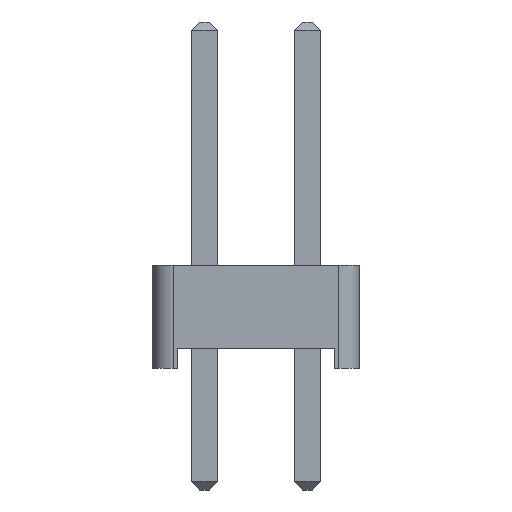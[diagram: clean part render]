
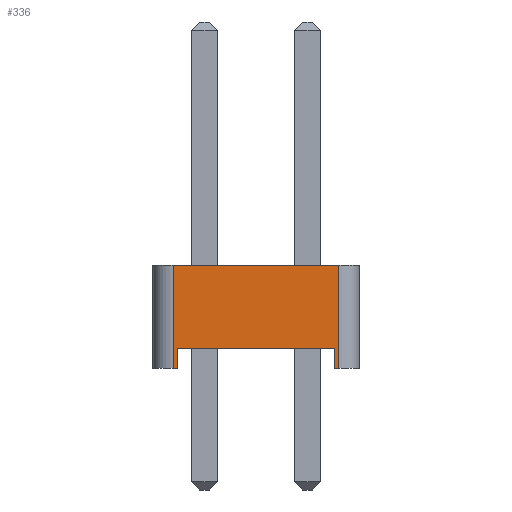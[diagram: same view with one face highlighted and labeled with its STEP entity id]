
A CAD part, left-side view. The second image highlights one B-rep face of the part: STEP entity #336.
In plain terms, the highlighted planar face has unit normal (-1, 0, 0).
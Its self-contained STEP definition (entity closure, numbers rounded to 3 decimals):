
#76 = VERTEX_POINT('',#77);
#77 = CARTESIAN_POINT('',(-1.27,2.04,0.));
#85 = PLANE('',#86);
#86 = AXIS2_PLACEMENT_3D('',#87,#88,#89);
#87 = CARTESIAN_POINT('',(0.,0.,0.));
#88 = DIRECTION('',(-0.,-0.,-1.));
#89 = DIRECTION('',(-1.,0.,0.));
#101 = CYLINDRICAL_SURFACE('',#102,0.5);
#102 = AXIS2_PLACEMENT_3D('',#103,#104,#105);
#103 = CARTESIAN_POINT('',(-0.77,2.04,0.));
#104 = DIRECTION('',(0.,0.,1.));
#105 = DIRECTION('',(0.,1.,0.));
#203 = VERTEX_POINT('',#204);
#204 = CARTESIAN_POINT('',(-1.27,1.94,0.));
#218 = PLANE('',#219);
#219 = AXIS2_PLACEMENT_3D('',#220,#221,#222);
#220 = CARTESIAN_POINT('',(1.27,1.94,0.));
#221 = DIRECTION('',(0.,-1.,0.));
#222 = DIRECTION('',(-1.,0.,0.));
#230 = EDGE_CURVE('',#203,#76,#231,.T.);
#231 = SURFACE_CURVE('',#232,(#236,#243),.PCURVE_S1.);
#232 = LINE('',#233,#234);
#233 = CARTESIAN_POINT('',(-1.27,-2.54,0.));
#234 = VECTOR('',#235,1.);
#235 = DIRECTION('',(0.,1.,0.));
#236 = PCURVE('',#85,#237);
#237 = DEFINITIONAL_REPRESENTATION('',(#238),#242);
#238 = LINE('',#239,#240);
#239 = CARTESIAN_POINT('',(1.27,-2.54));
#240 = VECTOR('',#241,1.);
#241 = DIRECTION('',(0.,1.));
#242 = ( GEOMETRIC_REPRESENTATION_CONTEXT(2) 
PARAMETRIC_REPRESENTATION_CONTEXT() REPRESENTATION_CONTEXT('2D SPACE',''
  ) );
#243 = PCURVE('',#244,#249);
#244 = PLANE('',#245);
#245 = AXIS2_PLACEMENT_3D('',#246,#247,#248);
#246 = CARTESIAN_POINT('',(-1.27,-2.54,0.));
#247 = DIRECTION('',(-1.,0.,0.));
#248 = DIRECTION('',(0.,1.,0.));
#249 = DEFINITIONAL_REPRESENTATION('',(#250),#254);
#250 = LINE('',#251,#252);
#251 = CARTESIAN_POINT('',(0.,0.));
#252 = VECTOR('',#253,1.);
#253 = DIRECTION('',(1.,0.));
#254 = ( GEOMETRIC_REPRESENTATION_CONTEXT(2) 
PARAMETRIC_REPRESENTATION_CONTEXT() REPRESENTATION_CONTEXT('2D SPACE',''
  ) );
#260 = EDGE_CURVE('',#76,#261,#263,.T.);
#261 = VERTEX_POINT('',#262);
#262 = CARTESIAN_POINT('',(-1.27,2.04,2.54));
#263 = SURFACE_CURVE('',#264,(#268,#275),.PCURVE_S1.);
#264 = LINE('',#265,#266);
#265 = CARTESIAN_POINT('',(-1.27,2.04,0.));
#266 = VECTOR('',#267,1.);
#267 = DIRECTION('',(0.,0.,1.));
#268 = PCURVE('',#101,#269);
#269 = DEFINITIONAL_REPRESENTATION('',(#270),#274);
#270 = LINE('',#271,#272);
#271 = CARTESIAN_POINT('',(1.571,0.));
#272 = VECTOR('',#273,1.);
#273 = DIRECTION('',(0.,1.));
#274 = ( GEOMETRIC_REPRESENTATION_CONTEXT(2) 
PARAMETRIC_REPRESENTATION_CONTEXT() REPRESENTATION_CONTEXT('2D SPACE',''
  ) );
#275 = PCURVE('',#244,#276);
#276 = DEFINITIONAL_REPRESENTATION('',(#277),#281);
#277 = LINE('',#278,#279);
#278 = CARTESIAN_POINT('',(4.58,0.));
#279 = VECTOR('',#280,1.);
#280 = DIRECTION('',(0.,-1.));
#281 = ( GEOMETRIC_REPRESENTATION_CONTEXT(2) 
PARAMETRIC_REPRESENTATION_CONTEXT() REPRESENTATION_CONTEXT('2D SPACE',''
  ) );
#300 = PLANE('',#301);
#301 = AXIS2_PLACEMENT_3D('',#302,#303,#304);
#302 = CARTESIAN_POINT('',(0.,0.,2.54));
#303 = DIRECTION('',(-0.,-0.,-1.));
#304 = DIRECTION('',(-1.,0.,0.));
#336 = ADVANCED_FACE('',(#337),#244,.T.);
#337 = FACE_BOUND('',#338,.T.);
#338 = EDGE_LOOP('',(#339,#369,#397,#418,#419,#420,#443,#471));
#339 = ORIENTED_EDGE('',*,*,#340,.F.);
#340 = EDGE_CURVE('',#341,#343,#345,.T.);
#341 = VERTEX_POINT('',#342);
#342 = CARTESIAN_POINT('',(-1.27,-2.04,0.));
#343 = VERTEX_POINT('',#344);
#344 = CARTESIAN_POINT('',(-1.27,-1.94,0.));
#345 = SURFACE_CURVE('',#346,(#350,#357),.PCURVE_S1.);
#346 = LINE('',#347,#348);
#347 = CARTESIAN_POINT('',(-1.27,-2.54,0.));
#348 = VECTOR('',#349,1.);
#349 = DIRECTION('',(0.,1.,0.));
#350 = PCURVE('',#244,#351);
#351 = DEFINITIONAL_REPRESENTATION('',(#352),#356);
#352 = LINE('',#353,#354);
#353 = CARTESIAN_POINT('',(0.,0.));
#354 = VECTOR('',#355,1.);
#355 = DIRECTION('',(1.,0.));
#356 = ( GEOMETRIC_REPRESENTATION_CONTEXT(2) 
PARAMETRIC_REPRESENTATION_CONTEXT() REPRESENTATION_CONTEXT('2D SPACE',''
  ) );
#357 = PCURVE('',#358,#363);
#358 = PLANE('',#359);
#359 = AXIS2_PLACEMENT_3D('',#360,#361,#362);
#360 = CARTESIAN_POINT('',(0.,0.,0.));
#361 = DIRECTION('',(-0.,-0.,-1.));
#362 = DIRECTION('',(-1.,0.,0.));
#363 = DEFINITIONAL_REPRESENTATION('',(#364),#368);
#364 = LINE('',#365,#366);
#365 = CARTESIAN_POINT('',(1.27,-2.54));
#366 = VECTOR('',#367,1.);
#367 = DIRECTION('',(0.,1.));
#368 = ( GEOMETRIC_REPRESENTATION_CONTEXT(2) 
PARAMETRIC_REPRESENTATION_CONTEXT() REPRESENTATION_CONTEXT('2D SPACE',''
  ) );
#369 = ORIENTED_EDGE('',*,*,#370,.T.);
#370 = EDGE_CURVE('',#341,#371,#373,.T.);
#371 = VERTEX_POINT('',#372);
#372 = CARTESIAN_POINT('',(-1.27,-2.04,2.54));
#373 = SURFACE_CURVE('',#374,(#378,#385),.PCURVE_S1.);
#374 = LINE('',#375,#376);
#375 = CARTESIAN_POINT('',(-1.27,-2.04,0.));
#376 = VECTOR('',#377,1.);
#377 = DIRECTION('',(0.,0.,1.));
#378 = PCURVE('',#244,#379);
#379 = DEFINITIONAL_REPRESENTATION('',(#380),#384);
#380 = LINE('',#381,#382);
#381 = CARTESIAN_POINT('',(0.5,0.));
#382 = VECTOR('',#383,1.);
#383 = DIRECTION('',(0.,-1.));
#384 = ( GEOMETRIC_REPRESENTATION_CONTEXT(2) 
PARAMETRIC_REPRESENTATION_CONTEXT() REPRESENTATION_CONTEXT('2D SPACE',''
  ) );
#385 = PCURVE('',#386,#391);
#386 = CYLINDRICAL_SURFACE('',#387,0.5);
#387 = AXIS2_PLACEMENT_3D('',#388,#389,#390);
#388 = CARTESIAN_POINT('',(-0.77,-2.04,0.));
#389 = DIRECTION('',(0.,0.,1.));
#390 = DIRECTION('',(0.,-1.,0.));
#391 = DEFINITIONAL_REPRESENTATION('',(#392),#396);
#392 = LINE('',#393,#394);
#393 = CARTESIAN_POINT('',(-1.571,0.));
#394 = VECTOR('',#395,1.);
#395 = DIRECTION('',(-0.,1.));
#396 = ( GEOMETRIC_REPRESENTATION_CONTEXT(2) 
PARAMETRIC_REPRESENTATION_CONTEXT() REPRESENTATION_CONTEXT('2D SPACE',''
  ) );
#397 = ORIENTED_EDGE('',*,*,#398,.T.);
#398 = EDGE_CURVE('',#371,#261,#399,.T.);
#399 = SURFACE_CURVE('',#400,(#404,#411),.PCURVE_S1.);
#400 = LINE('',#401,#402);
#401 = CARTESIAN_POINT('',(-1.27,-2.54,2.54));
#402 = VECTOR('',#403,1.);
#403 = DIRECTION('',(0.,1.,0.));
#404 = PCURVE('',#244,#405);
#405 = DEFINITIONAL_REPRESENTATION('',(#406),#410);
#406 = LINE('',#407,#408);
#407 = CARTESIAN_POINT('',(0.,-2.54));
#408 = VECTOR('',#409,1.);
#409 = DIRECTION('',(1.,0.));
#410 = ( GEOMETRIC_REPRESENTATION_CONTEXT(2) 
PARAMETRIC_REPRESENTATION_CONTEXT() REPRESENTATION_CONTEXT('2D SPACE',''
  ) );
#411 = PCURVE('',#300,#412);
#412 = DEFINITIONAL_REPRESENTATION('',(#413),#417);
#413 = LINE('',#414,#415);
#414 = CARTESIAN_POINT('',(1.27,-2.54));
#415 = VECTOR('',#416,1.);
#416 = DIRECTION('',(0.,1.));
#417 = ( GEOMETRIC_REPRESENTATION_CONTEXT(2) 
PARAMETRIC_REPRESENTATION_CONTEXT() REPRESENTATION_CONTEXT('2D SPACE',''
  ) );
#418 = ORIENTED_EDGE('',*,*,#260,.F.);
#419 = ORIENTED_EDGE('',*,*,#230,.F.);
#420 = ORIENTED_EDGE('',*,*,#421,.T.);
#421 = EDGE_CURVE('',#203,#422,#424,.T.);
#422 = VERTEX_POINT('',#423);
#423 = CARTESIAN_POINT('',(-1.27,1.94,0.5));
#424 = SURFACE_CURVE('',#425,(#429,#436),.PCURVE_S1.);
#425 = LINE('',#426,#427);
#426 = CARTESIAN_POINT('',(-1.27,1.94,0.));
#427 = VECTOR('',#428,1.);
#428 = DIRECTION('',(0.,0.,1.));
#429 = PCURVE('',#244,#430);
#430 = DEFINITIONAL_REPRESENTATION('',(#431),#435);
#431 = LINE('',#432,#433);
#432 = CARTESIAN_POINT('',(4.48,0.));
#433 = VECTOR('',#434,1.);
#434 = DIRECTION('',(0.,-1.));
#435 = ( GEOMETRIC_REPRESENTATION_CONTEXT(2) 
PARAMETRIC_REPRESENTATION_CONTEXT() REPRESENTATION_CONTEXT('2D SPACE',''
  ) );
#436 = PCURVE('',#218,#437);
#437 = DEFINITIONAL_REPRESENTATION('',(#438),#442);
#438 = LINE('',#439,#440);
#439 = CARTESIAN_POINT('',(2.54,0.));
#440 = VECTOR('',#441,1.);
#441 = DIRECTION('',(0.,-1.));
#442 = ( GEOMETRIC_REPRESENTATION_CONTEXT(2) 
PARAMETRIC_REPRESENTATION_CONTEXT() REPRESENTATION_CONTEXT('2D SPACE',''
  ) );
#443 = ORIENTED_EDGE('',*,*,#444,.T.);
#444 = EDGE_CURVE('',#422,#445,#447,.T.);
#445 = VERTEX_POINT('',#446);
#446 = CARTESIAN_POINT('',(-1.27,-1.94,0.5));
#447 = SURFACE_CURVE('',#448,(#452,#459),.PCURVE_S1.);
#448 = LINE('',#449,#450);
#449 = CARTESIAN_POINT('',(-1.27,1.94,0.5));
#450 = VECTOR('',#451,1.);
#451 = DIRECTION('',(0.,-1.,0.));
#452 = PCURVE('',#244,#453);
#453 = DEFINITIONAL_REPRESENTATION('',(#454),#458);
#454 = LINE('',#455,#456);
#455 = CARTESIAN_POINT('',(4.48,-0.5));
#456 = VECTOR('',#457,1.);
#457 = DIRECTION('',(-1.,0.));
#458 = ( GEOMETRIC_REPRESENTATION_CONTEXT(2) 
PARAMETRIC_REPRESENTATION_CONTEXT() REPRESENTATION_CONTEXT('2D SPACE',''
  ) );
#459 = PCURVE('',#460,#465);
#460 = PLANE('',#461);
#461 = AXIS2_PLACEMENT_3D('',#462,#463,#464);
#462 = CARTESIAN_POINT('',(0.,0.,0.5));
#463 = DIRECTION('',(0.,0.,1.));
#464 = DIRECTION('',(1.,0.,0.));
#465 = DEFINITIONAL_REPRESENTATION('',(#466),#470);
#466 = LINE('',#467,#468);
#467 = CARTESIAN_POINT('',(-1.27,1.94));
#468 = VECTOR('',#469,1.);
#469 = DIRECTION('',(0.,-1.));
#470 = ( GEOMETRIC_REPRESENTATION_CONTEXT(2) 
PARAMETRIC_REPRESENTATION_CONTEXT() REPRESENTATION_CONTEXT('2D SPACE',''
  ) );
#471 = ORIENTED_EDGE('',*,*,#472,.F.);
#472 = EDGE_CURVE('',#343,#445,#473,.T.);
#473 = SURFACE_CURVE('',#474,(#478,#485),.PCURVE_S1.);
#474 = LINE('',#475,#476);
#475 = CARTESIAN_POINT('',(-1.27,-1.94,0.));
#476 = VECTOR('',#477,1.);
#477 = DIRECTION('',(0.,0.,1.));
#478 = PCURVE('',#244,#479);
#479 = DEFINITIONAL_REPRESENTATION('',(#480),#484);
#480 = LINE('',#481,#482);
#481 = CARTESIAN_POINT('',(0.6,0.));
#482 = VECTOR('',#483,1.);
#483 = DIRECTION('',(0.,-1.));
#484 = ( GEOMETRIC_REPRESENTATION_CONTEXT(2) 
PARAMETRIC_REPRESENTATION_CONTEXT() REPRESENTATION_CONTEXT('2D SPACE',''
  ) );
#485 = PCURVE('',#486,#491);
#486 = PLANE('',#487);
#487 = AXIS2_PLACEMENT_3D('',#488,#489,#490);
#488 = CARTESIAN_POINT('',(-1.27,-1.94,0.));
#489 = DIRECTION('',(0.,1.,0.));
#490 = DIRECTION('',(1.,0.,0.));
#491 = DEFINITIONAL_REPRESENTATION('',(#492),#496);
#492 = LINE('',#493,#494);
#493 = CARTESIAN_POINT('',(0.,0.));
#494 = VECTOR('',#495,1.);
#495 = DIRECTION('',(0.,-1.));
#496 = ( GEOMETRIC_REPRESENTATION_CONTEXT(2) 
PARAMETRIC_REPRESENTATION_CONTEXT() REPRESENTATION_CONTEXT('2D SPACE',''
  ) );
